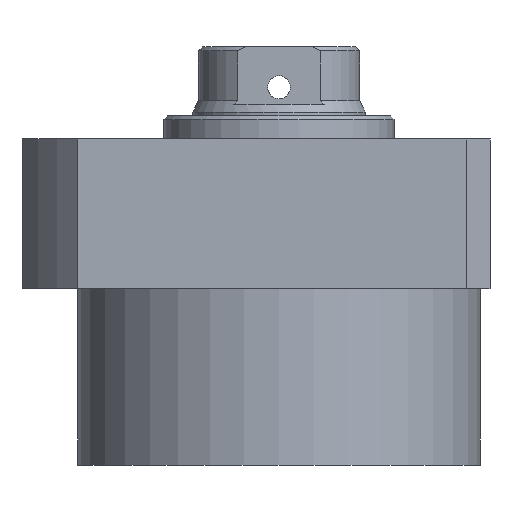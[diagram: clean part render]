
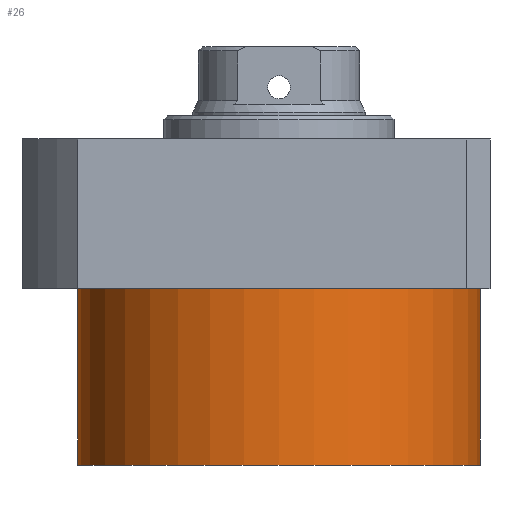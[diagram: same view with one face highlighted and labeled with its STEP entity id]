
A CAD part, front view. The second image highlights one B-rep face of the part: STEP entity #26.
In plain terms, the highlighted cylindrical face has radius 52.5 mm (diameter 105 mm), a partial arc.
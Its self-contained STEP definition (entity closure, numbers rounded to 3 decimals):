
#26 = ADVANCED_FACE ( 'NONE', ( #329 ), #1854, .T. ) ;
#35 = DIRECTION ( 'NONE',  ( 0., 0., 1. ) ) ;
#38 = CARTESIAN_POINT ( 'NONE',  ( -52.5, 0., -65.5 ) ) ;
#47 = CARTESIAN_POINT ( 'NONE',  ( 0., 0., -65.5 ) ) ;
#101 = LINE ( 'NONE', #1447, #278 ) ;
#141 = CARTESIAN_POINT ( 'NONE',  ( 52.5, 0., -65.5 ) ) ;
#184 = VERTEX_POINT ( 'NONE', #1211 ) ;
#220 = EDGE_CURVE ( 'NONE', #947, #2093, #736, .T. ) ;
#233 = EDGE_CURVE ( 'NONE', #299, #184, #360, .T. ) ;
#238 = DIRECTION ( 'NONE',  ( -1., 0., 0. ) ) ;
#278 = VECTOR ( 'NONE', #780, 1000. ) ;
#299 = VERTEX_POINT ( 'NONE', #1259 ) ;
#329 = FACE_OUTER_BOUND ( 'NONE', #366, .T. ) ;
#360 = CIRCLE ( 'NONE', #1532, 52.5 ) ;
#366 = EDGE_LOOP ( 'NONE', ( #2128, #1687, #1469, #1397 ) ) ;
#513 = VECTOR ( 'NONE', #1764, 1000. ) ;
#542 = CARTESIAN_POINT ( 'NONE',  ( 0., 0., -19.5 ) ) ;
#551 = DIRECTION ( 'NONE',  ( 1., 0., 0. ) ) ;
#553 = CARTESIAN_POINT ( 'NONE',  ( 52.5, 0., -65.5 ) ) ;
#574 = AXIS2_PLACEMENT_3D ( 'NONE', #1229, #723, #238 ) ;
#665 = LINE ( 'NONE', #553, #513 ) ;
#723 = DIRECTION ( 'NONE',  ( 0., 0., -1. ) ) ;
#736 = CIRCLE ( 'NONE', #574, 52.5 ) ;
#780 = DIRECTION ( 'NONE',  ( 0., 0., 1. ) ) ;
#947 = VERTEX_POINT ( 'NONE', #141 ) ;
#990 = EDGE_CURVE ( 'NONE', #2093, #184, #101, .T. ) ;
#1211 = CARTESIAN_POINT ( 'NONE',  ( -52.5, 0., -19.5 ) ) ;
#1216 = AXIS2_PLACEMENT_3D ( 'NONE', #47, #35, #2053 ) ;
#1229 = CARTESIAN_POINT ( 'NONE',  ( 0., 0., -65.5 ) ) ;
#1259 = CARTESIAN_POINT ( 'NONE',  ( 52.5, 0., -19.5 ) ) ;
#1397 = ORIENTED_EDGE ( 'NONE', *, *, #233, .T. ) ;
#1447 = CARTESIAN_POINT ( 'NONE',  ( -52.5, 0., -65.5 ) ) ;
#1469 = ORIENTED_EDGE ( 'NONE', *, *, #1829, .T. ) ;
#1532 = AXIS2_PLACEMENT_3D ( 'NONE', #542, #2096, #551 ) ;
#1687 = ORIENTED_EDGE ( 'NONE', *, *, #220, .F. ) ;
#1764 = DIRECTION ( 'NONE',  ( 0., 0., 1. ) ) ;
#1829 = EDGE_CURVE ( 'NONE', #947, #299, #665, .T. ) ;
#1854 = CYLINDRICAL_SURFACE ( 'NONE', #1216, 52.5 ) ;
#2053 = DIRECTION ( 'NONE',  ( 1., 0., 0. ) ) ;
#2093 = VERTEX_POINT ( 'NONE', #38 ) ;
#2096 = DIRECTION ( 'NONE',  ( 0., 0., -1. ) ) ;
#2128 = ORIENTED_EDGE ( 'NONE', *, *, #990, .F. ) ;
